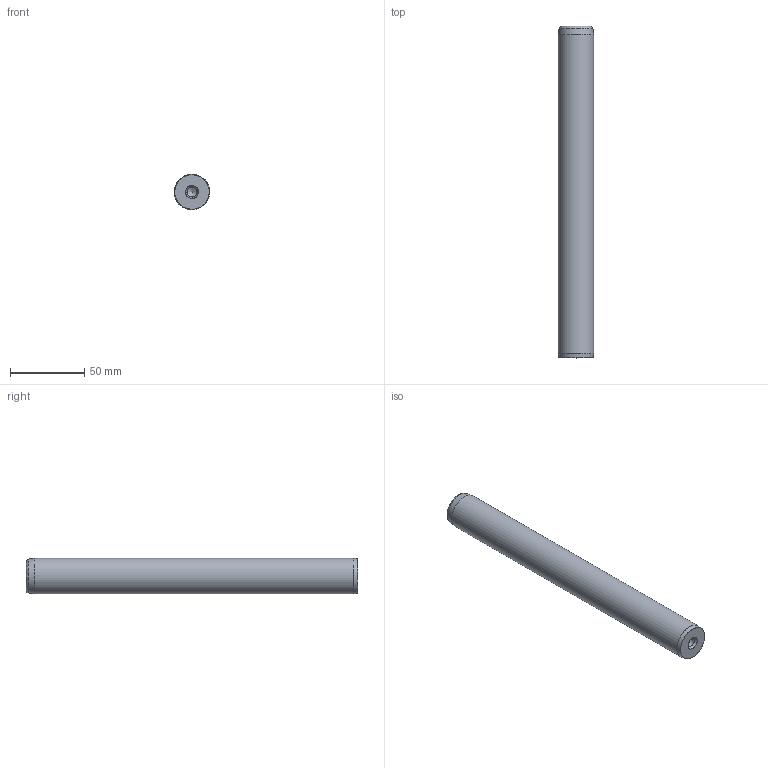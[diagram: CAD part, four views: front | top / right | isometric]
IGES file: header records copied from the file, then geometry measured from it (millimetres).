
Start section: Missler Software BP 521, 31674 Labege Cedex, France Tel   : +33 (0)5 61 00 03 00 Fax   : +33 (0)5 61 00 03 03 Email : sup.topsolid@topsolid.com
Global section: file name: D:\Cuma\D14\D14_24224.igs; native system: TopSolid v605250 Missler Software; preprocessor: IGES preprocessor v100000; date: 030120.192306; units: millimetre
Bounding box: 23.97 x 224 x 24 mm (x, y, z)
Surface area: 18777.6 mm2 (no closed solid volume)
Topology: 0 solids, 0 shells, 14 faces, 145 edges, 136 vertices
Faces by surface type: bspline 14
